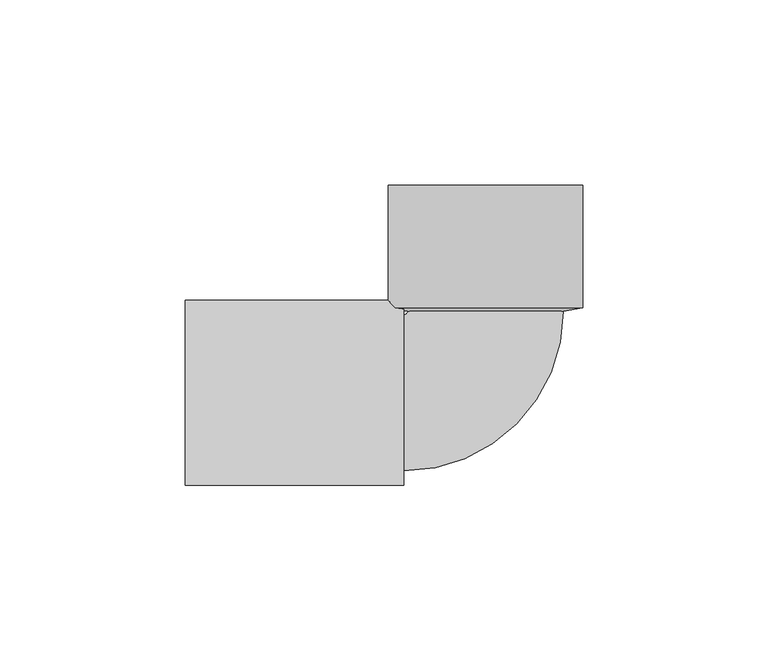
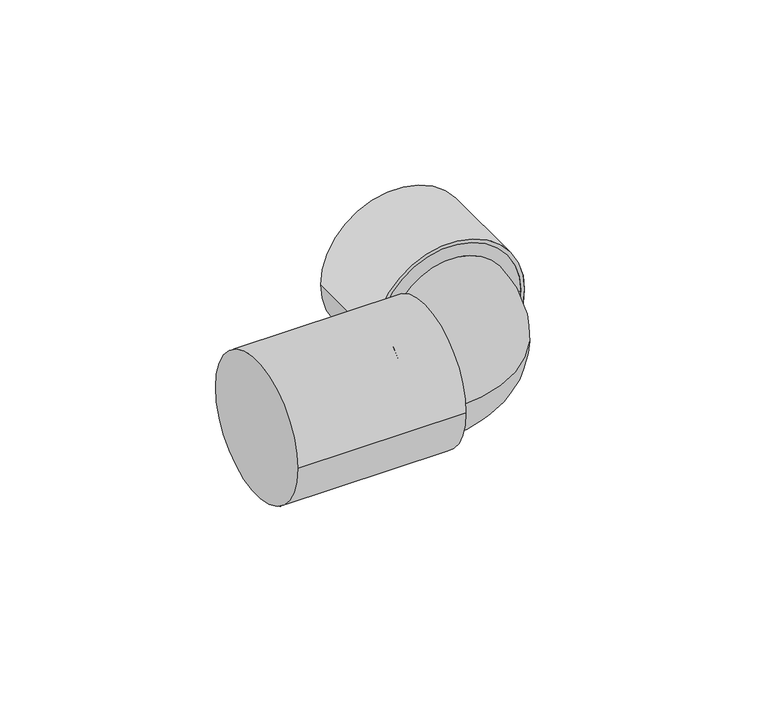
"""IFC4 building model written with IfcOpenShell, lengths in millimetres: pipe fitting geometry, Superdrain HTSW- siphon bend 90 : Superdrain  HTSW- siphon bend 90."""

from ifc_helpers import new_model, si_unit, point, frame, origin, origin_2d, place, context, project, spatial, polyline, circle_curve, ellipse_curve, trimmed, segment, composite_curve, outline, extrude, source, transform, mapped, element, save
from ifc_brep_helpers import plane_surface, revolved_surface, advanced_brep


def pipe_fitting_af56b474(model_context):
    return source(origin(), model_context, "Body", "SolidModel", [
        advanced_brep(
        [(21.0, 22.0, 0.0), (-21.0, 22.0, 0.0), (-22.0, -21.0, 0.0), (-22.0, 21.0, 0.0)],
        [
            (0, 1, circle_curve(frame((0.0, 22.0, 0.0), z_axis=(0.0, 1.0, 0.0), x_axis=(-1.0, 0.0, 0.0)), 21.0)),
            (1, 0, circle_curve(frame((0.0, 22.0, 0.0), z_axis=(0.0, 1.0, 0.0), x_axis=(-1.0, 0.0, 0.0)), 21.0)),
            (2, 3, circle_curve(frame((-22.0, 0.0, 0.0), z_axis=(-1.0, 0.0, 0.0), x_axis=(0.0, 1.0, 0.0)), 21.0)),
            (3, 2, circle_curve(frame((-22.0, 0.0, 0.0), z_axis=(-1.0, 0.0, 0.0), x_axis=(0.0, 1.0, 0.0)), 21.0)),
            (3, 1, circle_curve(frame((-22.0, 22.0, 0.0), z_axis=(0.0, 0.0, 1.0), x_axis=(1.0, 0.0, 0.0)), 1.0)),
            (0, 2, circle_curve(frame((-22.0, 22.0, 0.0), z_axis=(0.0, 0.0, -1.0), x_axis=(1.0, 0.0, 0.0)), 43.0)),
        ],
        [
            plane_surface(frame((0.0, 22.0, 0.0), z_axis=(0.0, 1.0, 0.0), x_axis=(0.0, 0.0, -1.0))),
            plane_surface(frame((-22.0, 0.0, 0.0), z_axis=(-1.0, 0.0, 0.0), x_axis=(0.0, 0.0, -1.0))),
            revolved_surface(trimmed(ellipse_curve(frame((0.0, 22.0, 0.0), z_axis=(0.0, -1.0, 0.0), x_axis=(-1.0, 0.0, 0.0)), 21.0, 21.0), [point((-21.0, 22.0, 0.0))], [point((21.0, 22.0, 0.0))], True, "CARTESIAN"), (-22.0, 22.0, 0.0), (0.0, 0.0, 1.0)),
            revolved_surface(trimmed(ellipse_curve(frame((0.0, 22.0, 0.0), z_axis=(0.0, -1.0, 0.0), x_axis=(-1.0, 0.0, 0.0)), 21.0, 21.0), [point((21.0, 22.0, 0.0))], [point((-21.0, 22.0, 0.0))], True, "CARTESIAN"), (-22.0, 22.0, 0.0), (0.0, 0.0, 1.0)),
        ],
        [
            (0, [[1, 2]]),
            (1, [[3, 4]]),
            (2, [[-4, 5, -1, 6]]),
            (3, [[-3, -6, -2, -5]]),
        ],
    ),
        extrude(outline(composite_curve([segment(trimmed(circle_curve(origin_2d(), 26.25), [point((0.0, 26.25))], [point((0.0, -26.25))], False, "CARTESIAN"), True, "CONTINUOUS"), segment(trimmed(circle_curve(origin_2d(), 26.25), [point((0.0, -26.25))], [point((0.0, 26.25))], False, "CARTESIAN"), True, "CONTINUOUS")], self_intersect=False), holes=[composite_curve([segment(trimmed(circle_curve(origin_2d(), 25.0), [point((0.0, 25.0))], [point((0.0, -25.0))], True, "CARTESIAN"), True, "CONTINUOUS"), segment(trimmed(circle_curve(origin_2d(), 25.0), [point((0.0, -25.0))], [point((0.0, 25.0))], True, "CARTESIAN"), True, "CONTINUOUS")], self_intersect=False)]), frame((0.0, 23.0, 0.0), z_axis=(0.0, 1.0, 0.0), x_axis=(0.0, 0.0, 1.0)), (0.0, 0.0, 1.0), 33.0),
        advanced_brep(
        [(26.25, 23.0, 0.0), (-26.25, 23.0, 0.0), (21.0, 22.0, 0.0), (-21.0, 22.0, 0.0)],
        [
            (0, 1, circle_curve(frame((0.0, 23.0, 0.0), z_axis=(0.0, 1.0, 0.0), x_axis=(1.0, 0.0, 0.0)), 26.25)),
            (1, 0, circle_curve(frame((0.0, 23.0, 0.0), z_axis=(0.0, 1.0, 0.0), x_axis=(-1.0, 0.0, 0.0)), 26.25)),
            (2, 3, circle_curve(frame((0.0, 22.0, 0.0), z_axis=(0.0, -1.0, 0.0), x_axis=(-1.0, 0.0, 0.0)), 21.0)),
            (3, 2, circle_curve(frame((0.0, 22.0, 0.0), z_axis=(0.0, -1.0, 0.0), x_axis=(1.0, 0.0, 0.0)), 21.0)),
            (3, 1),
            (0, 2),
        ],
        [
            plane_surface(frame((0.0, 23.0, 0.0), z_axis=(0.0, 1.0, 0.0), x_axis=(0.0, 0.0, -1.0))),
            plane_surface(frame((0.0, 22.0, 0.0), z_axis=(0.0, -1.0, 0.0), x_axis=(0.0, 0.0, -1.0))),
            revolved_surface(polyline([(-21.0, 22.0, 0.0), (-26.25, 23.0, 0.0)]), (0.0, 18.0, 0.0), (0.0, 1.0, 0.0)),
            revolved_surface(polyline([(21.0, 22.0, 0.0), (26.25, 23.0, 0.0)]), (0.0, 18.0, 0.0), (0.0, 1.0, 0.0)),
        ],
        [
            (0, [[1, 2]]),
            (1, [[3, 4]]),
            (2, [[-4, 5, -1, 6]]),
            (3, [[-3, -6, -2, -5]]),
        ],
    ),
        extrude(outline(composite_curve([segment(trimmed(circle_curve(origin_2d(), 25.0), [point((-25.0, 0.0))], [point((25.0, 0.0))], False, "CARTESIAN"), True, "CONTINUOUS"), segment(trimmed(circle_curve(origin_2d(), 25.0), [point((25.0, 0.0))], [point((-25.0, 0.0))], False, "CARTESIAN"), True, "CONTINUOUS")], self_intersect=False)), frame((-81.0, 0.0, 0.0), z_axis=(1.0, 0.0, 0.0), x_axis=(0.0, 1.0, 0.0)), (0.0, 0.0, 1.0), 59.0),
    ])


if __name__ == "__main__":
    model = new_model("IFC4")
    model_context = context("Model", 3, world=origin())
    ifc_project = project(units=[si_unit("LENGTHUNIT", "METRE", prefix="MILLI")], contexts=[model_context])
    site = spatial("IfcSite", under=ifc_project)
    building = spatial("IfcBuilding", under=site)
    placement = place(None, origin())
    pipe_fitting_shape = pipe_fitting_af56b474(model_context)
    element("IfcPipeFitting", 1, ObjectType="Superdrain HTSW- siphon bend 90 : Superdrain  HTSW- siphon bend 90", at=placement, inside=building, context=model_context, shape_type="MappedRepresentation", body=[
        mapped(pipe_fitting_shape, transform((0.0, 0.0, 0.0), x_axis=(1.0, 0.0, 0.0), y_axis=(0.0, 1.0, 0.0), z_axis=(0.0, 0.0, 1.0))),
    ])
    save(model, "model.ifc")
